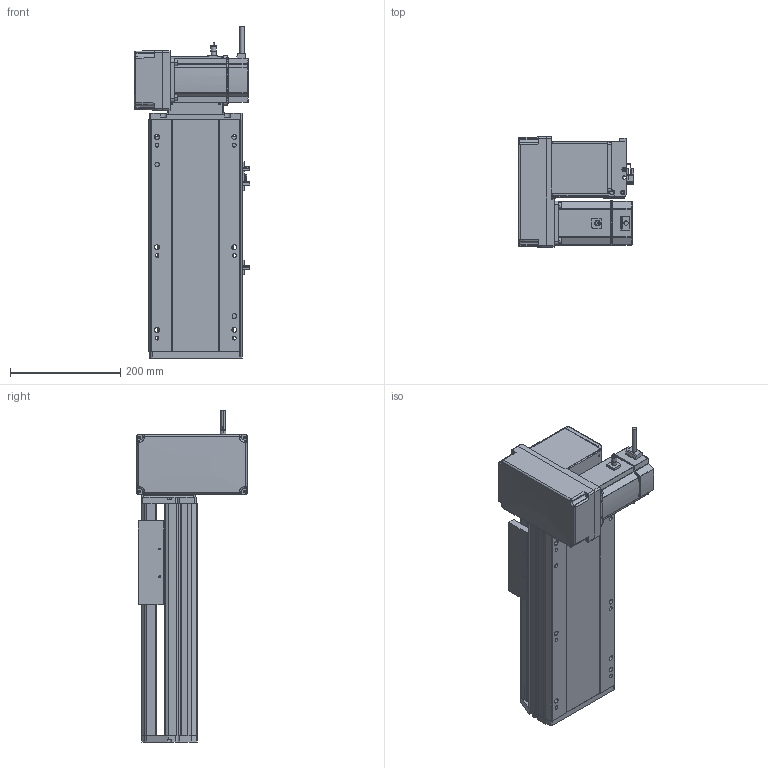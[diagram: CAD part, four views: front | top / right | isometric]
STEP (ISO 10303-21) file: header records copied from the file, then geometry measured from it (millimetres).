
FILE_DESCRIPTION (( 'STEP AP214' ), '1' );
FILE_NAME ('RTB17S-XX-150-LM-M75-C4.STEP', '2025-12-12T00:33:22', ( '' ), ( '' ), 'SwSTEP 2.0', 'SolidWorks 2018', '' );
FILE_SCHEMA (( 'AUTOMOTIVE_DESIGN' ));
Length unit declared in the file: millimetre
Products named in the file (15): 750W萇儂^RTB17S-XX-XX-LM-M75-C4; RTB17S-LM-々湍釱蚾饜-750W^RTB17S-XX-XX-LM-M75-C4; RTB22S-GY-017P^RTB17S-LM-々湍釱蚾饜-750W_RTB17S-XX-XX-LM-M75-C4; RTB17S-L-001-耜醱啣^RTB17S-XX-XX-LM-M75-C4; RTB17S-賑釱^RTB17S-XX-XX-LM-M75-C4; RTB22S-GY-008-M75--萇儂啣^RTB17S-LM-々湍釱蚾饜-750W_RTB17S-XX-XX-LM-M75-C4; RTB17S-L-007奻裔^RTB17S-XX-XX-LM-M75-C4; RTB17S-XX-150-LM-M75-C4; RTB17S-L-004-賑釱^RTB17S-賑釱_RTB17S-XX-XX-LM-M75-C4; EE672^RTB17S-XX-XX-LM-M75-C4; RTB17-R-011菁釱^RTB17S-XX-XX-LM-M75-C4; RTH13-BL-012覜茼え俋离^RTB17S-賑釱_RTB17S-XX-XX-LM-M75-C4; RTB22S-GY-018P^RTB17S-LM-々湍釱蚾饜-750W_RTB17S-XX-XX-LM-M75-C4; RTB22S-GY-005P^RTB17S-LM-々湍釱蚾饜-750W_RTB17S-XX-XX-LM-M75-C4; RTB17S-L-014-T20-P75--々湍釱^RTB17S-LM-々湍釱蚾饜-750W_RTB17S-XX-XX-LM-M75-C4
Assembly tree (17 placements, depth 3):
  RTB17S-XX-150-LM-M75-C4
    RTB17-R-011菁釱^RTB17S-XX-XX-LM-M75-C4
    EE672^RTB17S-XX-XX-LM-M75-C4  x3
    RTB17S-L-001-耜醱啣^RTB17S-XX-XX-LM-M75-C4
    RTB17S-賑釱^RTB17S-XX-XX-LM-M75-C4
      RTB17S-L-004-賑釱^RTB17S-賑釱_RTB17S-XX-XX-LM-M75-C4
      RTH13-BL-012覜茼え俋离^RTB17S-賑釱_RTB17S-XX-XX-LM-M75-C4
    RTB17S-L-007奻裔^RTB17S-XX-XX-LM-M75-C4
    750W萇儂^RTB17S-XX-XX-LM-M75-C4
    RTB17S-LM-々湍釱蚾饜-750W^RTB17S-XX-XX-LM-M75-C4
      RTB17S-L-014-T20-P75--々湍釱^RTB17S-LM-々湍釱蚾饜-750W_RTB17S-XX-XX-LM-M75-C4
      RTB22S-GY-005P^RTB17S-LM-々湍釱蚾饜-750W_RTB17S-XX-XX-LM-M75-C4
      RTB22S-GY-017P^RTB17S-LM-々湍釱蚾饜-750W_RTB17S-XX-XX-LM-M75-C4  x2
      RTB22S-GY-008-M75--萇儂啣^RTB17S-LM-々湍釱蚾饜-750W_RTB17S-XX-XX-LM-M75-C4
      RTB22S-GY-018P^RTB17S-LM-々湍釱蚾饜-750W_RTB17S-XX-XX-LM-M75-C4
Bounding box: 210.4 x 200 x 602.2 mm (x, y, z)
Volume: 6887654.1 mm3; surface area: 1026839.2 mm2
Topology: 17 solids, 17 shells, 2025 faces, 5566 edges, 3590 vertices
Faces by surface type: plane 962, cylinder 647, bspline 294, cone 110, sphere 8, torus 4
Entity records: 55030 total; most frequent: CARTESIAN_POINT 16030, ORIENTED_EDGE 7976, DIRECTION 7502, EDGE_CURVE 3988, AXIS2_PLACEMENT_3D 2610, VERTEX_POINT 2594, VECTOR 2282, LINE 2282
